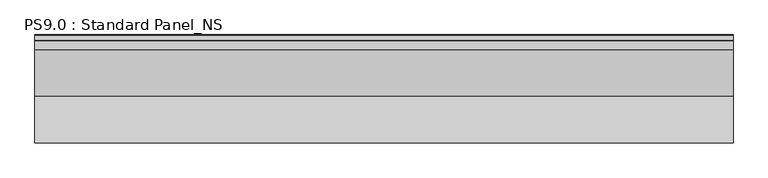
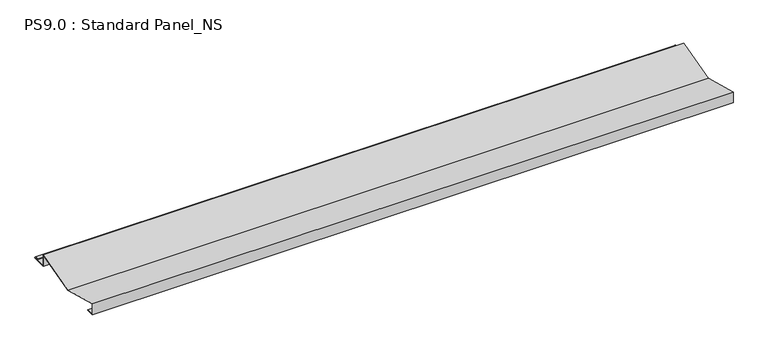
"""IFC4 building model written with IfcOpenShell, lengths in millimetres: proxy geometry, PS9.0 : Standard Panel_NS."""

from ifc_helpers import new_model, si_unit, point, frame, frame_2d, origin, place, context, project, spatial, polyline, circle_curve, trimmed, segment, composite_curve, outline, extrude, source, transform, mapped, element, save


def ps9_0_standard_panel_ns_6eacb7c6(model_context):
    return source(origin(), model_context, "Body", "SweptSolid", [
        extrude(outline(composite_curve([segment(polyline([(0.0, 0.0), (0.0, 38.0), (140.0, 0.0), (279.9966446, 38.0), (279.9966446, 0.0), (324.8317866, 0.0)]), True, "CONTINUOUS"), segment(trimmed(circle_curve(frame_2d((324.3094696, 0.9153551)), 1.0538928), [point((324.8317866, 0.0))], [point((324.8448691, 1.8231201))], True, "CARTESIAN"), True, "CONTINUOUS"), segment(polyline([(324.8448691, 1.8231201), (308.5989911, 4.94103), (308.7874714, 5.923107), (325.1748462, 2.778041)]), True, "CONTINUOUS"), segment(trimmed(circle_curve(frame_2d((324.3094696, 0.9153551)), 2.0538928), [point((325.1748462, 2.778041))], [point((325.0510156, -1.0))], False, "CARTESIAN"), True, "CONTINUOUS"), segment(polyline([(325.0510156, -1.0), (278.9966446, -1.0), (278.9966446, 36.6923811), (140.0000031, -1.036183), (1.0, 36.6923893), (1.0, 1.0), (25.0, 1.0), (25.0, 0.0), (0.0, 0.0)]), True, "CONTINUOUS")], self_intersect=False)), frame((0.0, 0.0, 0.0), z_axis=(1.0, 0.0, 0.0), x_axis=(0.0, 1.0, 0.0)), (0.0, 0.0, 1.0), 2100.0),
    ])


if __name__ == "__main__":
    model = new_model("IFC4")
    model_context = context("Model", 3, world=origin())
    ifc_project = project(units=[si_unit("LENGTHUNIT", "METRE", prefix="MILLI")], contexts=[model_context])
    site = spatial("IfcSite", under=ifc_project)
    building = spatial("IfcBuilding", under=site)
    placement = place(None, origin())
    ps9_0_standard_panel_ns_shape = ps9_0_standard_panel_ns_6eacb7c6(model_context)
    element("IfcBuildingElementProxy", 1, Name="PS9.0 : Standard Panel_NS", ObjectType="PS9.0 : Standard Panel_NS", at=placement, inside=building, context=model_context, shape_type="MappedRepresentation", body=[
        mapped(ps9_0_standard_panel_ns_shape, transform((0.0, 0.0, 0.0), x_axis=(1.0, 0.0, 0.0), y_axis=(0.0, 1.0, 0.0), z_axis=(0.0, 0.0, 1.0))),
    ])
    save(model, "model.ifc")
